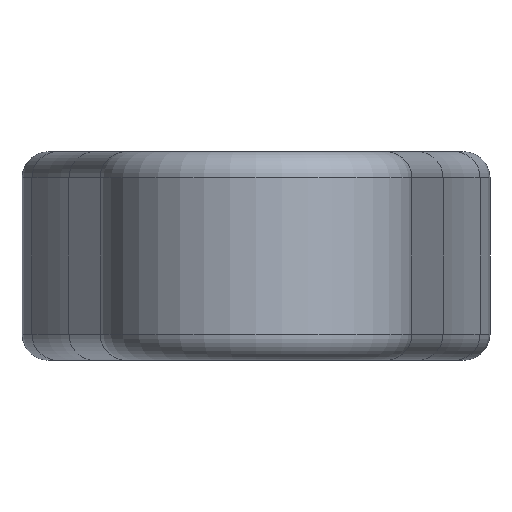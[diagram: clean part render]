
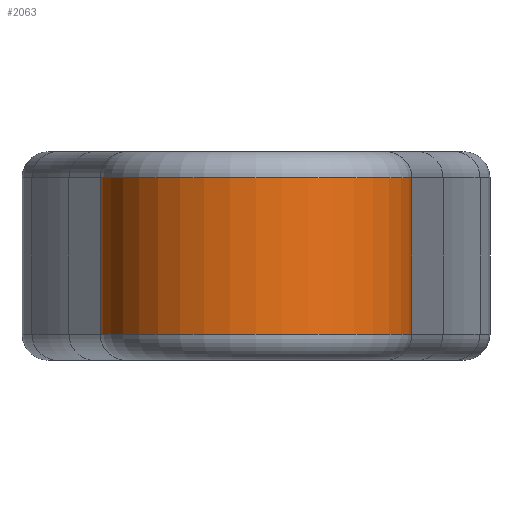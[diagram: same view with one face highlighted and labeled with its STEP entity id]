
A CAD part, left-side view. The second image highlights one B-rep face of the part: STEP entity #2063.
In plain terms, the highlighted cylindrical face has radius 30 mm (diameter 60 mm), a partial arc.
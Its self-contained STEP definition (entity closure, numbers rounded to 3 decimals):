
#1700 = CYLINDRICAL_SURFACE('',#1701,45.265);
#1701 = AXIS2_PLACEMENT_3D('',#1702,#1703,#1704);
#1702 = CARTESIAN_POINT('',(33.702,67.298,-20.));
#1703 = DIRECTION('',(-0.,-0.,-1.));
#1704 = DIRECTION('',(1.,0.,0.));
#1797 = EDGE_CURVE('',#1798,#1800,#1802,.T.);
#1798 = VERTEX_POINT('',#1799);
#1799 = CARTESIAN_POINT('',(13.433,26.824,-15.));
#1800 = VERTEX_POINT('',#1801);
#1801 = CARTESIAN_POINT('',(13.433,26.824,15.));
#1802 = SURFACE_CURVE('',#1803,(#1807,#1814),.PCURVE_S1.);
#1803 = LINE('',#1804,#1805);
#1804 = CARTESIAN_POINT('',(13.433,26.824,-20.));
#1805 = VECTOR('',#1806,1.);
#1806 = DIRECTION('',(0.,0.,1.));
#1807 = PCURVE('',#1700,#1808);
#1808 = DEFINITIONAL_REPRESENTATION('',(#1809),#1813);
#1809 = LINE('',#1810,#1811);
#1810 = CARTESIAN_POINT('',(-4.248,0.));
#1811 = VECTOR('',#1812,1.);
#1812 = DIRECTION('',(-0.,-1.));
#1813 = ( GEOMETRIC_REPRESENTATION_CONTEXT(2) 
PARAMETRIC_REPRESENTATION_CONTEXT() REPRESENTATION_CONTEXT('2D SPACE',''
  ) );
#1814 = PCURVE('',#1815,#1820);
#1815 = CYLINDRICAL_SURFACE('',#1816,30.);
#1816 = AXIS2_PLACEMENT_3D('',#1817,#1818,#1819);
#1817 = CARTESIAN_POINT('',(0.,0.,-20.));
#1818 = DIRECTION('',(-0.,-0.,-1.));
#1819 = DIRECTION('',(1.,0.,0.));
#1820 = DEFINITIONAL_REPRESENTATION('',(#1821),#1825);
#1821 = LINE('',#1822,#1823);
#1822 = CARTESIAN_POINT('',(-1.107,0.));
#1823 = VECTOR('',#1824,1.);
#1824 = DIRECTION('',(-0.,-1.));
#1825 = ( GEOMETRIC_REPRESENTATION_CONTEXT(2) 
PARAMETRIC_REPRESENTATION_CONTEXT() REPRESENTATION_CONTEXT('2D SPACE',''
  ) );
#2063 = ADVANCED_FACE('',(#2064),#1815,.T.);
#2064 = FACE_BOUND('',#2065,.F.);
#2065 = EDGE_LOOP('',(#2066,#2067,#2096,#2124));
#2066 = ORIENTED_EDGE('',*,*,#1797,.T.);
#2067 = ORIENTED_EDGE('',*,*,#2068,.F.);
#2068 = EDGE_CURVE('',#2069,#1800,#2071,.T.);
#2069 = VERTEX_POINT('',#2070);
#2070 = CARTESIAN_POINT('',(13.433,-26.824,15.));
#2071 = SURFACE_CURVE('',#2072,(#2077,#2084),.PCURVE_S1.);
#2072 = CIRCLE('',#2073,30.);
#2073 = AXIS2_PLACEMENT_3D('',#2074,#2075,#2076);
#2074 = CARTESIAN_POINT('',(0.,0.,15.));
#2075 = DIRECTION('',(0.,0.,-1.));
#2076 = DIRECTION('',(0.448,-0.894,0.));
#2077 = PCURVE('',#1815,#2078);
#2078 = DEFINITIONAL_REPRESENTATION('',(#2079),#2083);
#2079 = LINE('',#2080,#2081);
#2080 = CARTESIAN_POINT('',(-5.177,-35.));
#2081 = VECTOR('',#2082,1.);
#2082 = DIRECTION('',(1.,-0.));
#2083 = ( GEOMETRIC_REPRESENTATION_CONTEXT(2) 
PARAMETRIC_REPRESENTATION_CONTEXT() REPRESENTATION_CONTEXT('2D SPACE',''
  ) );
#2084 = PCURVE('',#2085,#2090);
#2085 = TOROIDAL_SURFACE('',#2086,25.,5.);
#2086 = AXIS2_PLACEMENT_3D('',#2087,#2088,#2089);
#2087 = CARTESIAN_POINT('',(0.,0.,15.));
#2088 = DIRECTION('',(0.,0.,1.));
#2089 = DIRECTION('',(0.448,-0.894,0.));
#2090 = DEFINITIONAL_REPRESENTATION('',(#2091),#2095);
#2091 = LINE('',#2092,#2093);
#2092 = CARTESIAN_POINT('',(-0.,0.));
#2093 = VECTOR('',#2094,1.);
#2094 = DIRECTION('',(-1.,0.));
#2095 = ( GEOMETRIC_REPRESENTATION_CONTEXT(2) 
PARAMETRIC_REPRESENTATION_CONTEXT() REPRESENTATION_CONTEXT('2D SPACE',''
  ) );
#2096 = ORIENTED_EDGE('',*,*,#2097,.F.);
#2097 = EDGE_CURVE('',#2098,#2069,#2100,.T.);
#2098 = VERTEX_POINT('',#2099);
#2099 = CARTESIAN_POINT('',(13.433,-26.824,-15.));
#2100 = SURFACE_CURVE('',#2101,(#2105,#2112),.PCURVE_S1.);
#2101 = LINE('',#2102,#2103);
#2102 = CARTESIAN_POINT('',(13.433,-26.824,-20.));
#2103 = VECTOR('',#2104,1.);
#2104 = DIRECTION('',(0.,0.,1.));
#2105 = PCURVE('',#1815,#2106);
#2106 = DEFINITIONAL_REPRESENTATION('',(#2107),#2111);
#2107 = LINE('',#2108,#2109);
#2108 = CARTESIAN_POINT('',(-5.177,0.));
#2109 = VECTOR('',#2110,1.);
#2110 = DIRECTION('',(-0.,-1.));
#2111 = ( GEOMETRIC_REPRESENTATION_CONTEXT(2) 
PARAMETRIC_REPRESENTATION_CONTEXT() REPRESENTATION_CONTEXT('2D SPACE',''
  ) );
#2112 = PCURVE('',#2113,#2118);
#2113 = CYLINDRICAL_SURFACE('',#2114,45.265);
#2114 = AXIS2_PLACEMENT_3D('',#2115,#2116,#2117);
#2115 = CARTESIAN_POINT('',(33.702,-67.298,-20.));
#2116 = DIRECTION('',(-0.,-0.,-1.));
#2117 = DIRECTION('',(1.,0.,0.));
#2118 = DEFINITIONAL_REPRESENTATION('',(#2119),#2123);
#2119 = LINE('',#2120,#2121);
#2120 = CARTESIAN_POINT('',(-2.035,0.));
#2121 = VECTOR('',#2122,1.);
#2122 = DIRECTION('',(-0.,-1.));
#2123 = ( GEOMETRIC_REPRESENTATION_CONTEXT(2) 
PARAMETRIC_REPRESENTATION_CONTEXT() REPRESENTATION_CONTEXT('2D SPACE',''
  ) );
#2124 = ORIENTED_EDGE('',*,*,#2125,.T.);
#2125 = EDGE_CURVE('',#2098,#1798,#2126,.T.);
#2126 = SURFACE_CURVE('',#2127,(#2132,#2139),.PCURVE_S1.);
#2127 = CIRCLE('',#2128,30.);
#2128 = AXIS2_PLACEMENT_3D('',#2129,#2130,#2131);
#2129 = CARTESIAN_POINT('',(0.,0.,-15.));
#2130 = DIRECTION('',(0.,0.,-1.));
#2131 = DIRECTION('',(0.448,-0.894,0.));
#2132 = PCURVE('',#1815,#2133);
#2133 = DEFINITIONAL_REPRESENTATION('',(#2134),#2138);
#2134 = LINE('',#2135,#2136);
#2135 = CARTESIAN_POINT('',(-5.177,-5.));
#2136 = VECTOR('',#2137,1.);
#2137 = DIRECTION('',(1.,-0.));
#2138 = ( GEOMETRIC_REPRESENTATION_CONTEXT(2) 
PARAMETRIC_REPRESENTATION_CONTEXT() REPRESENTATION_CONTEXT('2D SPACE',''
  ) );
#2139 = PCURVE('',#2140,#2145);
#2140 = TOROIDAL_SURFACE('',#2141,25.,5.);
#2141 = AXIS2_PLACEMENT_3D('',#2142,#2143,#2144);
#2142 = CARTESIAN_POINT('',(0.,0.,-15.));
#2143 = DIRECTION('',(0.,0.,-1.));
#2144 = DIRECTION('',(0.448,-0.894,0.));
#2145 = DEFINITIONAL_REPRESENTATION('',(#2146),#2150);
#2146 = LINE('',#2147,#2148);
#2147 = CARTESIAN_POINT('',(0.,0.));
#2148 = VECTOR('',#2149,1.);
#2149 = DIRECTION('',(1.,0.));
#2150 = ( GEOMETRIC_REPRESENTATION_CONTEXT(2) 
PARAMETRIC_REPRESENTATION_CONTEXT() REPRESENTATION_CONTEXT('2D SPACE',''
  ) );
